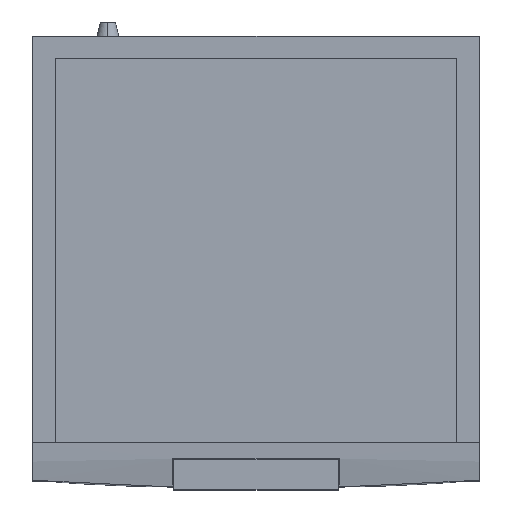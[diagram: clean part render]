
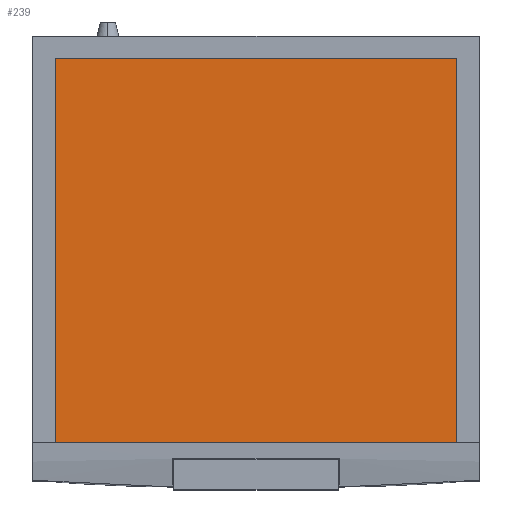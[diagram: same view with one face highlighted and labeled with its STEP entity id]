
A CAD part, top view. The second image highlights one B-rep face of the part: STEP entity #239.
In plain terms, the highlighted planar face has unit normal (0, 0, 1).
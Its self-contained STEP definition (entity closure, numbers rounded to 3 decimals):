
#239=ADVANCED_FACE('',(#381),#2255,.T.);
#381=FACE_OUTER_BOUND('',#530,.T.);
#530=EDGE_LOOP('',(#1075,#1076,#1077,#1078));
#1075=ORIENTED_EDGE('',*,*,#1536,.F.);
#1076=ORIENTED_EDGE('',*,*,#1532,.F.);
#1077=ORIENTED_EDGE('',*,*,#1544,.F.);
#1078=ORIENTED_EDGE('',*,*,#1528,.F.);
#1528=EDGE_CURVE('',#2127,#2128,#1807,.T.);
#1532=EDGE_CURVE('',#2131,#2132,#1811,.T.);
#1536=EDGE_CURVE('',#2132,#2127,#1815,.T.);
#1544=EDGE_CURVE('',#2128,#2131,#1823,.T.);
#1807=B_SPLINE_CURVE_WITH_KNOTS('',1,(#3557,#3558),.UNSPECIFIED.,.F.,.F.,
(2,2),(-1.68,0.),.UNSPECIFIED.);
#1811=B_SPLINE_CURVE_WITH_KNOTS('',1,(#3565,#3566),.UNSPECIFIED.,.F.,.F.,
(2,2),(-1.68,0.),.UNSPECIFIED.);
#1815=B_SPLINE_CURVE_WITH_KNOTS('',1,(#3573,#3574),.UNSPECIFIED.,.F.,.F.,
(2,2),(-1.755,0.),.UNSPECIFIED.);
#1823=B_SPLINE_CURVE_WITH_KNOTS('',1,(#3589,#3590),.UNSPECIFIED.,.F.,.F.,
(2,2),(0.,1.755),.UNSPECIFIED.);
#2127=VERTEX_POINT('',#3205);
#2128=VERTEX_POINT('',#3206);
#2131=VERTEX_POINT('',#3209);
#2132=VERTEX_POINT('',#3210);
#2255=PLANE('',#2414);
#2414=AXIS2_PLACEMENT_3D('',#3102,#2555,$);
#2555=DIRECTION('',(0.,0.,1.));
#3102=CARTESIAN_POINT('',(-267.51,562.01,847.));
#3205=CARTESIAN_POINT('',(267.5,562.,847.));
#3206=CARTESIAN_POINT('',(267.5,50.,847.));
#3209=CARTESIAN_POINT('',(-267.5,50.,847.));
#3210=CARTESIAN_POINT('',(-267.5,562.,847.));
#3557=CARTESIAN_POINT('',(267.5,562.,847.));
#3558=CARTESIAN_POINT('',(267.5,50.,847.));
#3565=CARTESIAN_POINT('',(-267.5,50.,847.));
#3566=CARTESIAN_POINT('',(-267.5,562.,847.));
#3573=CARTESIAN_POINT('',(-267.5,562.,847.));
#3574=CARTESIAN_POINT('',(267.5,562.,847.));
#3589=CARTESIAN_POINT('',(267.5,50.,847.));
#3590=CARTESIAN_POINT('',(-267.5,50.,847.));
